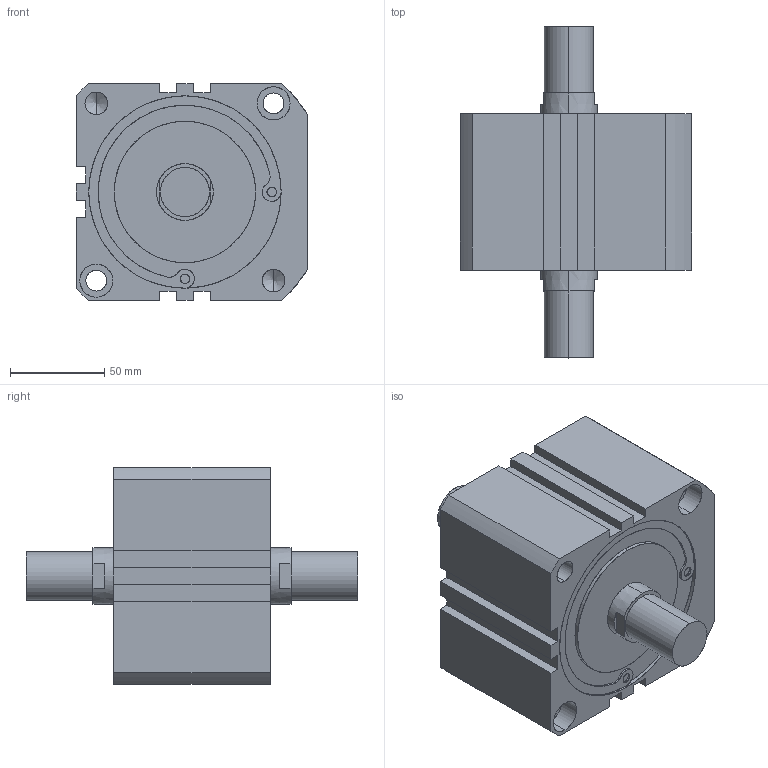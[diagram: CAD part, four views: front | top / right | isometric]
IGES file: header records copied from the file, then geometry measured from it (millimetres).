
Start section: SolidWorks IGES file using analytic representation for surfaces
Global section: file name: C:\Users\Toshiba\Desktop\XC#M7-100D-10.IGS; native system: SolidWorks 2014; preprocessor: SolidWorks 2014; author: Toshiba; date: 160523.170553; units: millimetre
Bounding box: 122.5 x 176 x 115 mm (x, y, z)
Surface area: 92323 mm2 (no closed solid volume)
Topology: 0 solids, 0 shells, 140 faces, 2684 edges, 2672 vertices
Faces by surface type: revolution 82, bspline 58
